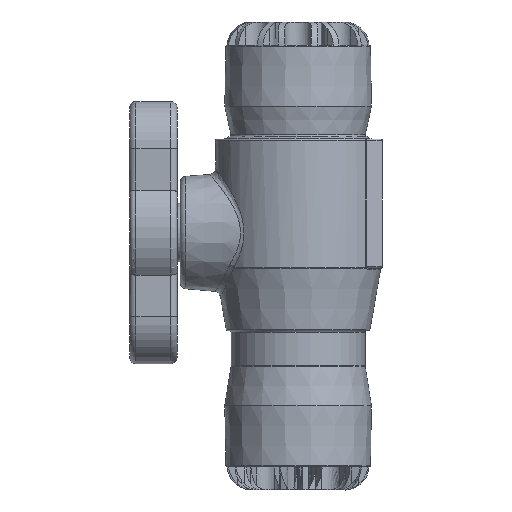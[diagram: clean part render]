
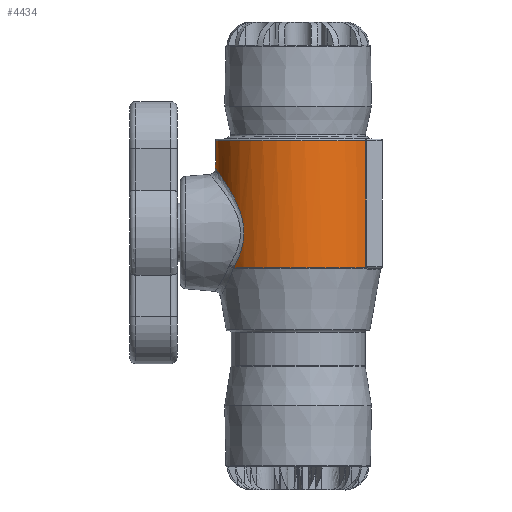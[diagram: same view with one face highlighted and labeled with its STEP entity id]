
A CAD part, left-side view. The second image highlights one B-rep face of the part: STEP entity #4434.
In plain terms, the highlighted cylindrical face has radius 26.5 mm (diameter 53 mm), a partial arc.
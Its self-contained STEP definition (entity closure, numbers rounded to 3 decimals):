
#183=LINE('',#6758,#422);
#184=LINE('',#6762,#423);
#422=VECTOR('',#5240,10.);
#423=VECTOR('',#5243,10.);
#661=CYLINDRICAL_SURFACE('',#4727,26.5);
#737=FACE_OUTER_BOUND('',#1010,.T.);
#1010=EDGE_LOOP('',(#2960,#2961,#2962,#2963,#2964,#2965,#2966,#2967));
#1296=B_SPLINE_CURVE_WITH_KNOTS('',3,(#6709,#6710,#6711,#6712,#6713,#6714,
#6715,#6716,#6717,#6718,#6719,#6720,#6721,#6722,#6723,#6724,#6725,#6726,
#6727,#6728),.UNSPECIFIED.,.F.,.F.,(4,1,1,1,1,1,1,1,1,1,1,1,1,1,1,1,1,4),
(-9.497,-8.819,-8.48,-8.141,
-7.462,-6.784,-6.105,-5.427,
-4.523,-4.07,-3.618,-2.714,
-2.035,-1.357,-1.018,-0.678,
-0.339,0.),.UNSPECIFIED.);
#1298=B_SPLINE_CURVE_WITH_KNOTS('',3,(#6753,#6754,#6755,#6756),
 .UNSPECIFIED.,.F.,.F.,(4,4),(0.,0.051),.UNSPECIFIED.);
#1299=B_SPLINE_CURVE_WITH_KNOTS('',3,(#6764,#6765,#6766,#6767),
 .UNSPECIFIED.,.F.,.F.,(4,4),(-0.051,0.),.UNSPECIFIED.);
#1497=CIRCLE('',#4728,26.5);
#1498=CIRCLE('',#4729,26.5);
#1499=CIRCLE('',#4730,26.5);
#1768=VERTEX_POINT('',#6493);
#1774=VERTEX_POINT('',#6599);
#1775=VERTEX_POINT('',#6750);
#1776=VERTEX_POINT('',#6752);
#1777=VERTEX_POINT('',#6757);
#1778=VERTEX_POINT('',#6759);
#1779=VERTEX_POINT('',#6761);
#1780=VERTEX_POINT('',#6763);
#2234=EDGE_CURVE('',#1768,#1774,#1296,.T.);
#2236=EDGE_CURVE('',#1775,#1768,#1497,.T.);
#2237=EDGE_CURVE('',#1776,#1775,#1298,.T.);
#2238=EDGE_CURVE('',#1777,#1776,#183,.T.);
#2239=EDGE_CURVE('',#1778,#1777,#1498,.T.);
#2240=EDGE_CURVE('',#1779,#1778,#184,.T.);
#2241=EDGE_CURVE('',#1780,#1779,#1299,.T.);
#2242=EDGE_CURVE('',#1774,#1780,#1499,.T.);
#2960=ORIENTED_EDGE('',*,*,#2234,.F.);
#2961=ORIENTED_EDGE('',*,*,#2236,.F.);
#2962=ORIENTED_EDGE('',*,*,#2237,.F.);
#2963=ORIENTED_EDGE('',*,*,#2238,.F.);
#2964=ORIENTED_EDGE('',*,*,#2239,.F.);
#2965=ORIENTED_EDGE('',*,*,#2240,.F.);
#2966=ORIENTED_EDGE('',*,*,#2241,.F.);
#2967=ORIENTED_EDGE('',*,*,#2242,.F.);
#4434=ADVANCED_FACE('',(#737),#661,.T.);
#4727=AXIS2_PLACEMENT_3D('',#6749,#5236,#5237);
#4728=AXIS2_PLACEMENT_3D('',#6751,#5238,#5239);
#4729=AXIS2_PLACEMENT_3D('',#6760,#5241,#5242);
#4730=AXIS2_PLACEMENT_3D('',#6768,#5244,#5245);
#5236=DIRECTION('center_axis',(0.,0.,-1.));
#5237=DIRECTION('ref_axis',(0.,1.,0.));
#5238=DIRECTION('center_axis',(0.,0.,-1.));
#5239=DIRECTION('ref_axis',(-1.,-0.025,0.));
#5240=DIRECTION('',(0.,0.,-1.));
#5241=DIRECTION('center_axis',(0.,0.,1.));
#5242=DIRECTION('ref_axis',(0.,1.,0.));
#5243=DIRECTION('',(0.,0.,1.));
#5244=DIRECTION('center_axis',(0.,0.,-1.));
#5245=DIRECTION('ref_axis',(1.,-0.025,0.));
#6493=CARTESIAN_POINT('',(-16.695,20.58,-78.823));
#6599=CARTESIAN_POINT('',(16.695,20.58,-78.823));
#6709=CARTESIAN_POINT('Ctrl Pts',(-16.695,20.58,-78.823));
#6710=CARTESIAN_POINT('Ctrl Pts',(-17.778,19.701,-77.131));
#6711=CARTESIAN_POINT('Ctrl Pts',(-19.082,18.42,-74.307));
#6712=CARTESIAN_POINT('Ctrl Pts',(-19.962,17.432,-69.988));
#6713=CARTESIAN_POINT('Ctrl Pts',(-20.137,17.222,-65.412));
#6714=CARTESIAN_POINT('Ctrl Pts',(-18.95,18.613,-59.971));
#6715=CARTESIAN_POINT('Ctrl Pts',(-15.975,21.312,-54.661));
#6716=CARTESIAN_POINT('Ctrl Pts',(-11.734,23.958,-50.438));
#6717=CARTESIAN_POINT('Ctrl Pts',(-5.701,26.216,-47.214));
#6718=CARTESIAN_POINT('Ctrl Pts',(0.751,26.759,-46.473));
#6719=CARTESIAN_POINT('Ctrl Pts',(6.219,25.863,-47.715));
#6720=CARTESIAN_POINT('Ctrl Pts',(11.187,24.258,-50.016));
#6721=CARTESIAN_POINT('Ctrl Pts',(15.646,21.608,-54.077));
#6722=CARTESIAN_POINT('Ctrl Pts',(18.949,18.615,-59.967));
#6723=CARTESIAN_POINT('Ctrl Pts',(20.138,17.221,-65.416));
#6724=CARTESIAN_POINT('Ctrl Pts',(19.961,17.433,-69.989));
#6725=CARTESIAN_POINT('Ctrl Pts',(19.303,18.171,-73.227));
#6726=CARTESIAN_POINT('Ctrl Pts',(18.208,19.281,-76.195));
#6727=CARTESIAN_POINT('Ctrl Pts',(17.236,20.141,-77.977));
#6728=CARTESIAN_POINT('Ctrl Pts',(16.695,20.58,-78.823));
#6749=CARTESIAN_POINT('Origin',(0.,0.,-58.183));
#6750=CARTESIAN_POINT('',(-15.141,-21.748,-78.823));
#6751=CARTESIAN_POINT('Origin',(0.,0.,-78.823));
#6752=CARTESIAN_POINT('',(-15.296,-21.64,-78.367));
#6753=CARTESIAN_POINT('Ctrl Pts',(-15.296,-21.64,-78.367));
#6754=CARTESIAN_POINT('Ctrl Pts',(-15.296,-21.64,-78.536));
#6755=CARTESIAN_POINT('Ctrl Pts',(-15.232,-21.685,-78.697));
#6756=CARTESIAN_POINT('Ctrl Pts',(-15.141,-21.748,-78.823));
#6757=CARTESIAN_POINT('',(-15.296,-21.64,-38.));
#6758=CARTESIAN_POINT('',(-15.296,-21.64,-58.183));
#6759=CARTESIAN_POINT('',(15.296,-21.64,-38.));
#6760=CARTESIAN_POINT('Origin',(0.,0.,-38.));
#6761=CARTESIAN_POINT('',(15.296,-21.64,-78.367));
#6762=CARTESIAN_POINT('',(15.296,-21.64,-58.183));
#6763=CARTESIAN_POINT('',(15.141,-21.748,-78.823));
#6764=CARTESIAN_POINT('Ctrl Pts',(15.141,-21.748,-78.823));
#6765=CARTESIAN_POINT('Ctrl Pts',(15.232,-21.685,-78.697));
#6766=CARTESIAN_POINT('Ctrl Pts',(15.296,-21.64,-78.536));
#6767=CARTESIAN_POINT('Ctrl Pts',(15.296,-21.64,-78.367));
#6768=CARTESIAN_POINT('Origin',(0.,0.,-78.823));
